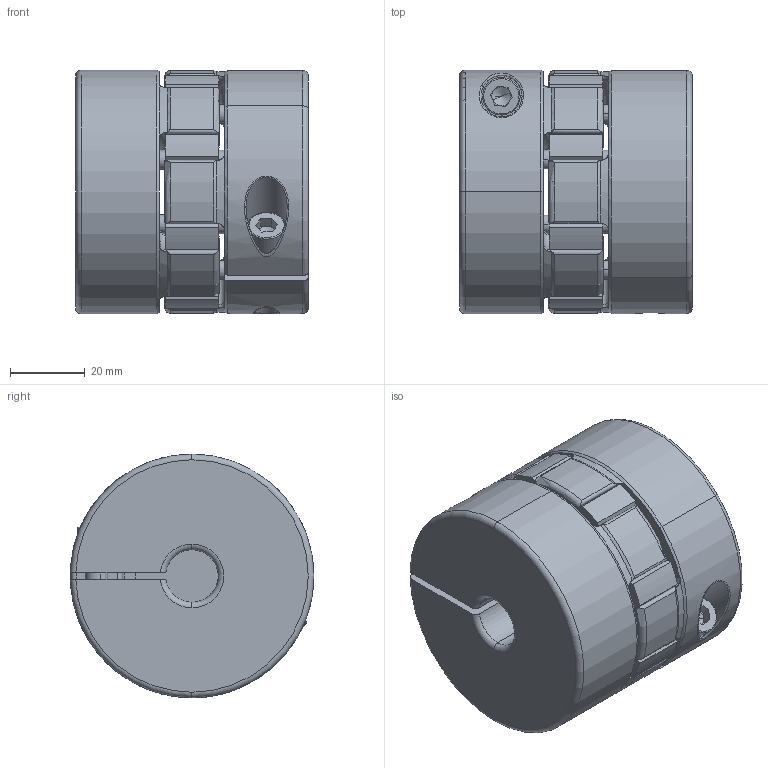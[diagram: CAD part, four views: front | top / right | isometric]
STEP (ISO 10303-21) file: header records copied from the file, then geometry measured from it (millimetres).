
FILE_DESCRIPTION (( 'STEP AP214' ), '1' );
FILE_NAME ('DXA-65X62-14-14.STEP', '2023-10-18T06:04:23', ( '' ), ( '' ), 'SwSTEP 2.0', 'SolidWorks 2020', '' );
FILE_SCHEMA (( 'AUTOMOTIVE_DESIGN' ));
Length unit declared in the file: millimetre
Products named in the file (4): 65X62媼唗CNC; 65繩豪菜; ISO 4762 M6 x 20 - 20C_ISO 4762 M6 x 20 - 20C; DXA-65X62-14-14
Assembly tree (5 placements, depth 2):
  DXA-65X62-14-14
    65X62媼唗CNC  x2
    65繩豪菜
    ISO 4762 M6 x 20 - 20C_ISO 4762 M6 x 20 - 20C  x2
Bounding box: 62.1 x 64.98 x 65 mm (x, y, z)
Volume: 178888.6 mm3; surface area: 44754.8 mm2
Topology: 5 solids, 5 shells, 395 faces, 1003 edges, 636 vertices
Faces by surface type: cylinder 189, torus 110, plane 66, cone 22, bspline 8
Entity records: 11545 total; most frequent: CARTESIAN_POINT 5494, DIRECTION 1335, ORIENTED_EDGE 1194, EDGE_CURVE 597, AXIS2_PLACEMENT_3D 584, VERTEX_POINT 383, CIRCLE 342, EDGE_LOOP 260
